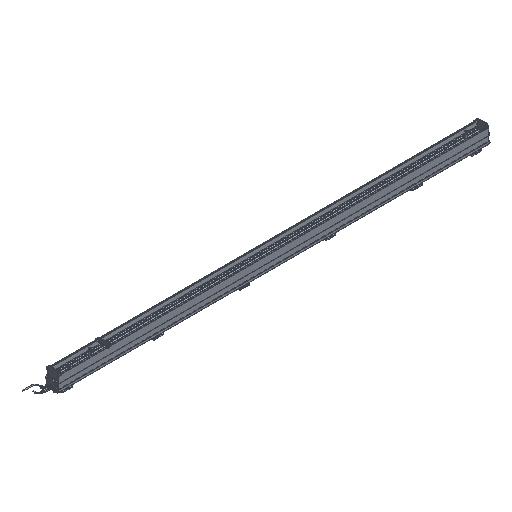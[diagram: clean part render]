
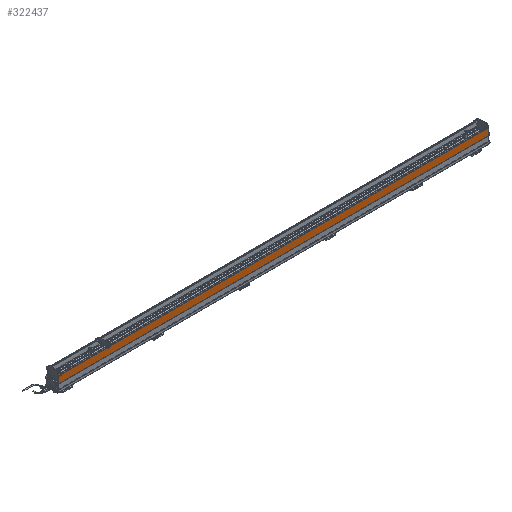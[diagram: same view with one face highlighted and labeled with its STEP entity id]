
A CAD part, isometric view. The second image highlights one B-rep face of the part: STEP entity #322437.
In plain terms, the highlighted planar face has unit normal (0, -1, 0) as drawn and (0, 1, 0) by its records, which use the part's own axes.
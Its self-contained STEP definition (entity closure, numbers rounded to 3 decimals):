
#116663=ORIENTED_EDGE('',*,*,#166088,.F.);
#116664=ORIENTED_EDGE('',*,*,#166053,.F.);
#116665=ORIENTED_EDGE('',*,*,#166087,.F.);
#116666=ORIENTED_EDGE('',*,*,#165992,.F.);
#142705=VECTOR('',#191511,1.);
#142732=VECTOR('',#191612,1.);
#142762=VECTOR('',#191706,1.);
#142763=VECTOR('',#191709,1.);
#150152=LINE('',#218595,#142705);
#150179=LINE('',#218718,#142732);
#150209=LINE('',#218784,#142762);
#150210=LINE('',#218786,#142763);
#157610=VERTEX_POINT('',#218592);
#157611=VERTEX_POINT('',#218594);
#157669=VERTEX_POINT('',#218715);
#157670=VERTEX_POINT('',#218717);
#165992=EDGE_CURVE('',#157610,#157611,#150152,.T.);
#166053=EDGE_CURVE('',#157669,#157670,#150179,.T.);
#166087=EDGE_CURVE('',#157611,#157669,#150209,.T.);
#166088=EDGE_CURVE('',#157670,#157610,#150210,.T.);
#179140=EDGE_LOOP('',(#116663,#116664,#116665,#116666));
#185226=FACE_BOUND('',#179140,.T.);
#191511=DIRECTION('',(36.287,0.,0.));
#191612=DIRECTION('',(-36.287,0.,0.));
#191706=DIRECTION('',(0.,0.,2285.));
#191707=DIRECTION('',(0.,1.,0.));
#191708=DIRECTION('',(1.,0.,0.));
#191709=DIRECTION('',(0.,0.,-2285.));
#218592=CARTESIAN_POINT('',(-29.322,15.,-2160.));
#218594=CARTESIAN_POINT('',(6.965,15.,-2160.));
#218595=CARTESIAN_POINT('',(-29.322,15.,-2160.));
#218715=CARTESIAN_POINT('',(6.965,15.,125.));
#218717=CARTESIAN_POINT('',(-29.322,15.,125.));
#218718=CARTESIAN_POINT('',(6.965,15.,125.));
#218784=CARTESIAN_POINT('',(6.965,15.,-2160.));
#218785=CARTESIAN_POINT('',(-29.322,15.,125.));
#218786=CARTESIAN_POINT('',(-29.322,15.,125.));
#310411=AXIS2_PLACEMENT_3D('',#218785,#191707,#191708);
#320109=PLANE('',#310411);
#322437=ADVANCED_FACE('',(#185226),#320109,.T.);
